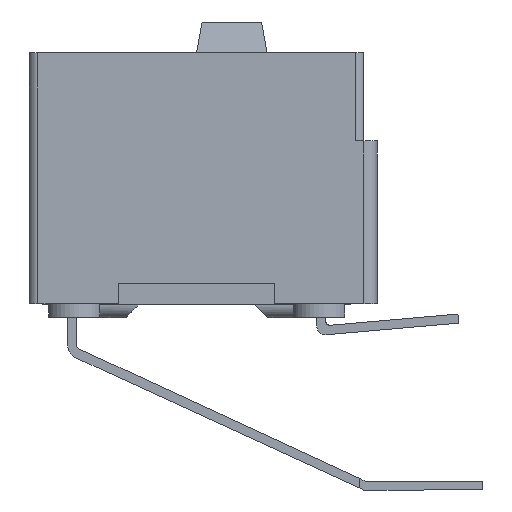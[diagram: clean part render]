
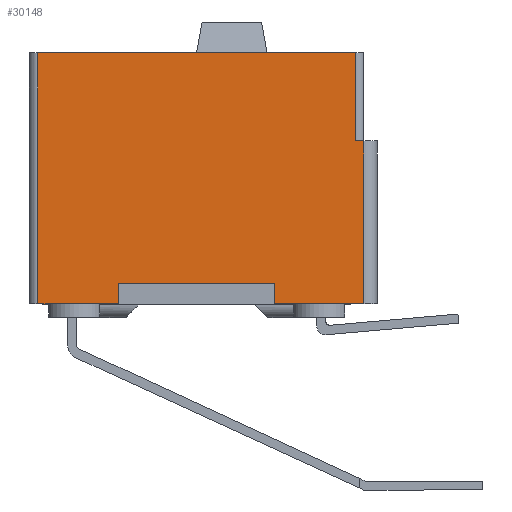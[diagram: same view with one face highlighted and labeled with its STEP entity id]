
A CAD part, left-side view. The second image highlights one B-rep face of the part: STEP entity #30148.
In plain terms, the highlighted planar face has unit normal (-1, 0, 0).
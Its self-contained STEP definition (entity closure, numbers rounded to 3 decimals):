
#552 = CARTESIAN_POINT ( 'NONE',  ( 0., -7.076, -7.239 ) ) ;
#864 = DIRECTION ( 'NONE',  ( 0., 0., -1. ) ) ;
#992 = CARTESIAN_POINT ( 'NONE',  ( 0., -9.652, -2.54 ) ) ;
#1085 = ORIENTED_EDGE ( 'NONE', *, *, #19468, .F. ) ;
#1174 = CARTESIAN_POINT ( 'NONE',  ( 0., -0.25, -7.239 ) ) ;
#1556 = EDGE_CURVE ( 'NONE', #16778, #26745, #7979, .T. ) ;
#1925 = FACE_OUTER_BOUND ( 'NONE', #3109, .T. ) ;
#2320 = DIRECTION ( 'NONE',  ( 0., 0., 1. ) ) ;
#2537 = CARTESIAN_POINT ( 'NONE',  ( 0., -2.576, -6.639 ) ) ;
#3109 = EDGE_LOOP ( 'NONE', ( #21799, #1085, #5074, #6575, #7620, #31862, #19523, #23149, #7308, #27423, #4192, #5030 ) ) ;
#3587 = VECTOR ( 'NONE', #864, 1000. ) ;
#3841 = LINE ( 'NONE', #1174, #15945 ) ;
#4192 = ORIENTED_EDGE ( 'NONE', *, *, #32992, .T. ) ;
#4207 = VECTOR ( 'NONE', #12885, 1000. ) ;
#4236 = LINE ( 'NONE', #15005, #3587 ) ;
#4970 = EDGE_CURVE ( 'NONE', #29489, #10875, #3841, .T. ) ;
#5030 = ORIENTED_EDGE ( 'NONE', *, *, #12985, .T. ) ;
#5074 = ORIENTED_EDGE ( 'NONE', *, *, #8804, .T. ) ;
#5154 = LINE ( 'NONE', #12930, #30058 ) ;
#5283 = DIRECTION ( 'NONE',  ( 0., -1., 0. ) ) ;
#5643 = CARTESIAN_POINT ( 'NONE',  ( 0., -7.076, -6.639 ) ) ;
#5714 = LINE ( 'NONE', #19636, #9463 ) ;
#5878 = EDGE_CURVE ( 'NONE', #30224, #16778, #5154, .T. ) ;
#6575 = ORIENTED_EDGE ( 'NONE', *, *, #4970, .T. ) ;
#6656 = DIRECTION ( 'NONE',  ( 0., -1., 0. ) ) ;
#6707 = VERTEX_POINT ( 'NONE', #20164 ) ;
#7079 = CARTESIAN_POINT ( 'NONE',  ( 0., -0.25, -7.239 ) ) ;
#7308 = ORIENTED_EDGE ( 'NONE', *, *, #1556, .F. ) ;
#7347 = VERTEX_POINT ( 'NONE', #21285 ) ;
#7620 = ORIENTED_EDGE ( 'NONE', *, *, #23019, .T. ) ;
#7782 = EDGE_CURVE ( 'NONE', #9726, #34158, #4236, .T. ) ;
#7979 = LINE ( 'NONE', #18742, #27815 ) ;
#8804 = EDGE_CURVE ( 'NONE', #22003, #29489, #32498, .T. ) ;
#9463 = VECTOR ( 'NONE', #24242, 1000. ) ;
#9701 = VECTOR ( 'NONE', #21178, 1000. ) ;
#9726 = VERTEX_POINT ( 'NONE', #10344 ) ;
#10115 = LINE ( 'NONE', #992, #29706 ) ;
#10254 = LINE ( 'NONE', #12748, #26051 ) ;
#10344 = CARTESIAN_POINT ( 'NONE',  ( 0., -2.576, -6.639 ) ) ;
#10424 = LINE ( 'NONE', #34836, #9701 ) ;
#10684 = VECTOR ( 'NONE', #34262, 1000. ) ;
#10875 = VERTEX_POINT ( 'NONE', #10995 ) ;
#10995 = CARTESIAN_POINT ( 'NONE',  ( 0., -8.357, -7.239 ) ) ;
#11026 = EDGE_CURVE ( 'NONE', #7347, #26745, #10424, .T. ) ;
#11667 = VECTOR ( 'NONE', #24215, 1000. ) ;
#12465 = CARTESIAN_POINT ( 'NONE',  ( 0., -9.652, -2.54 ) ) ;
#12748 = CARTESIAN_POINT ( 'NONE',  ( 0., -0.25, -7.239 ) ) ;
#12885 = DIRECTION ( 'NONE',  ( 0., 0., -1. ) ) ;
#12930 = CARTESIAN_POINT ( 'NONE',  ( 0., -0.25, -7.239 ) ) ;
#12985 = EDGE_CURVE ( 'NONE', #6707, #34158, #17960, .T. ) ;
#14232 = CARTESIAN_POINT ( 'NONE',  ( 0., -2.576, -7.239 ) ) ;
#15005 = CARTESIAN_POINT ( 'NONE',  ( 0., -2.576, -6.639 ) ) ;
#15371 = LINE ( 'NONE', #7079, #25466 ) ;
#15938 = LINE ( 'NONE', #2537, #11667 ) ;
#15945 = VECTOR ( 'NONE', #6656, 1000. ) ;
#16036 = AXIS2_PLACEMENT_3D ( 'NONE', #16052, #19191, #5283 ) ;
#16052 = CARTESIAN_POINT ( 'NONE',  ( 0., -0.25, -7.239 ) ) ;
#16382 = CARTESIAN_POINT ( 'NONE',  ( 0., -0.25, -7.239 ) ) ;
#16743 = VERTEX_POINT ( 'NONE', #28425 ) ;
#16778 = VERTEX_POINT ( 'NONE', #25922 ) ;
#17848 = DIRECTION ( 'NONE',  ( 0., -1., 0. ) ) ;
#17898 = VERTEX_POINT ( 'NONE', #12465 ) ;
#17960 = LINE ( 'NONE', #23592, #10684 ) ;
#18742 = CARTESIAN_POINT ( 'NONE',  ( 0., -0.25, 0. ) ) ;
#19033 = CARTESIAN_POINT ( 'NONE',  ( 0., -7.076, -6.639 ) ) ;
#19191 = DIRECTION ( 'NONE',  ( -1., 0., 0. ) ) ;
#19298 = EDGE_CURVE ( 'NONE', #17898, #16743, #10115, .T. ) ;
#19468 = EDGE_CURVE ( 'NONE', #22003, #9726, #15938, .T. ) ;
#19523 = ORIENTED_EDGE ( 'NONE', *, *, #27695, .T. ) ;
#19636 = CARTESIAN_POINT ( 'NONE',  ( 0., -9.402, -2.54 ) ) ;
#20164 = CARTESIAN_POINT ( 'NONE',  ( 0., -1.295, -7.239 ) ) ;
#20534 = DIRECTION ( 'NONE',  ( 0., 0., -1. ) ) ;
#20728 = CARTESIAN_POINT ( 'NONE',  ( 0., -9.402, 0. ) ) ;
#20862 = DIRECTION ( 'NONE',  ( 0., -1., 0. ) ) ;
#21178 = DIRECTION ( 'NONE',  ( 0., 0., 1. ) ) ;
#21285 = CARTESIAN_POINT ( 'NONE',  ( 0., -9.402, -2.54 ) ) ;
#21799 = ORIENTED_EDGE ( 'NONE', *, *, #7782, .F. ) ;
#22003 = VERTEX_POINT ( 'NONE', #5643 ) ;
#23019 = EDGE_CURVE ( 'NONE', #10875, #16743, #15371, .T. ) ;
#23149 = ORIENTED_EDGE ( 'NONE', *, *, #11026, .T. ) ;
#23592 = CARTESIAN_POINT ( 'NONE',  ( 0., -0.25, -7.239 ) ) ;
#24215 = DIRECTION ( 'NONE',  ( 0., 1., 0. ) ) ;
#24242 = DIRECTION ( 'NONE',  ( 0., 1., 0. ) ) ;
#25466 = VECTOR ( 'NONE', #17848, 1000. ) ;
#25922 = CARTESIAN_POINT ( 'NONE',  ( 0., -0.25, 0. ) ) ;
#26051 = VECTOR ( 'NONE', #31475, 1000. ) ;
#26745 = VERTEX_POINT ( 'NONE', #20728 ) ;
#27423 = ORIENTED_EDGE ( 'NONE', *, *, #5878, .F. ) ;
#27695 = EDGE_CURVE ( 'NONE', #17898, #7347, #5714, .T. ) ;
#27815 = VECTOR ( 'NONE', #20862, 1000. ) ;
#28425 = CARTESIAN_POINT ( 'NONE',  ( 0., -9.652, -7.239 ) ) ;
#29141 = PLANE ( 'NONE',  #16036 ) ;
#29489 = VERTEX_POINT ( 'NONE', #552 ) ;
#29706 = VECTOR ( 'NONE', #20534, 1000. ) ;
#30058 = VECTOR ( 'NONE', #2320, 1000. ) ;
#30148 = ADVANCED_FACE ( 'NONE', ( #1925 ), #29141, .T. ) ;
#30224 = VERTEX_POINT ( 'NONE', #16382 ) ;
#31475 = DIRECTION ( 'NONE',  ( 0., -1., 0. ) ) ;
#31862 = ORIENTED_EDGE ( 'NONE', *, *, #19298, .F. ) ;
#32498 = LINE ( 'NONE', #19033, #4207 ) ;
#32992 = EDGE_CURVE ( 'NONE', #30224, #6707, #10254, .T. ) ;
#34158 = VERTEX_POINT ( 'NONE', #14232 ) ;
#34262 = DIRECTION ( 'NONE',  ( 0., -1., 0. ) ) ;
#34836 = CARTESIAN_POINT ( 'NONE',  ( 0., -9.402, -7.239 ) ) ;
